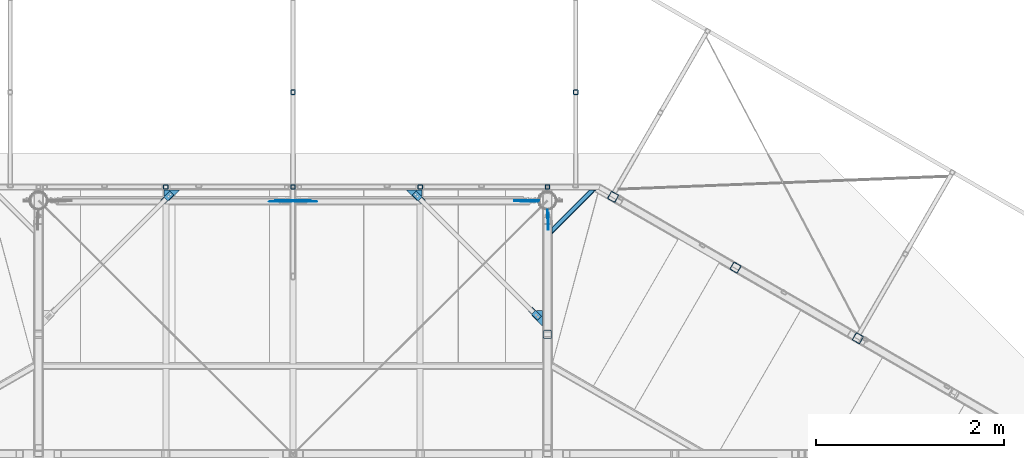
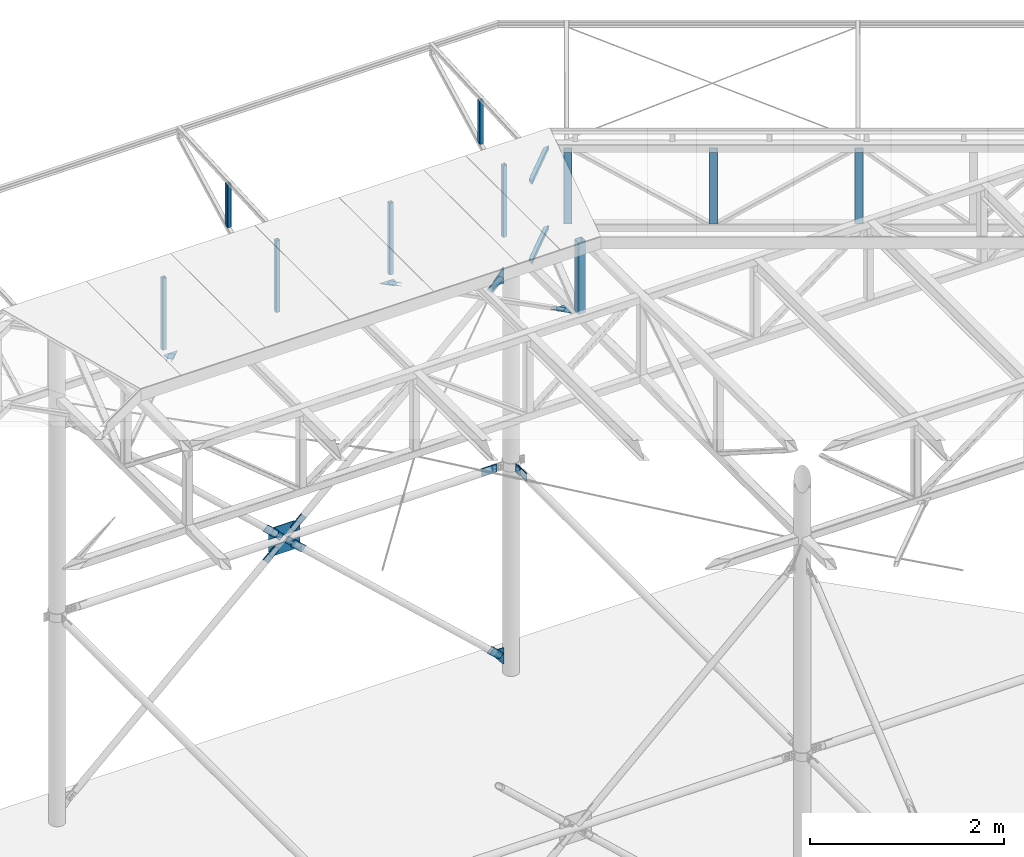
# One storey, part 94 of 132: 39 discrete accessories, 16 elements without a shape of their own.
"""IFC2X3 building model written with IfcOpenShell, lengths in millimetres."""

import ifcopenshell
import ifcopenshell.guid

model = None  # the IFC model being written
_history = None  # IfcOwnerHistory: only IFC2X3 demands one
_inside = {}  # id of a spatial element -> (the spatial element, [elements in it])
_under = {}  # id of a project, library or spatial element -> (it, [spatial elements below it])
_declared = {}  # id of a project -> (the project, [libraries it declares])
_typed = {}  # id of a type object -> (the type object, [elements of that type])
_made_of = {}  # id of a material, layer set ... -> (it, [elements and type objects made of it])


def new_model(schema):
    """Start an empty IFC model of exactly this schema.

    Asked for "IFC4X3", IfcOpenShell would pick the latest addendum, in which some entities
    have other attributes; the version numbers below select the first issue.
    IFC2X3 requires an IfcOwnerHistory on every rooted entity: one is made here for all.
    """
    global model, _history
    if schema == "IFC4X3":
        model = ifcopenshell.file(schema_version=(4, 3, 0, 0))
    else:
        model = ifcopenshell.file(schema=schema)
    _inside.clear()
    _under.clear()
    _declared.clear()
    _typed.clear()
    _made_of.clear()
    _history = None
    if model.schema == "IFC2X3":
        org = make("IfcOrganization", Name="unknown")
        user = make(
            "IfcPersonAndOrganization",
            ThePerson=make("IfcPerson", FamilyName="unknown"),
            TheOrganization=org,
        )
        app = make(
            "IfcApplication",
            ApplicationDeveloper=org,
            Version="unknown",
            ApplicationFullName="unknown",
            ApplicationIdentifier="unknown",
        )
        _history = make(
            "IfcOwnerHistory",
            OwningUser=user,
            OwningApplication=app,
            ChangeAction="ADDED",
            CreationDate=0,
        )
    return model


def make(cls, **values):
    """One entity of the class cls with the attributes given. An attribute that is None is left unset."""
    return model.create_entity(
        cls, **{name: value for name, value in values.items() if value is not None}
    )


def rooted(cls, **values):
    """An entity with a GlobalId (a new one), such as an element, a storey or a relation."""
    return make(cls, GlobalId=ifcopenshell.guid.new(), OwnerHistory=_history, **values)


def si_unit(unit_type, name, prefix=None):
    """IfcSIUnit, for example si_unit("LENGTHUNIT", "METRE", prefix="MILLI")."""
    return make("IfcSIUnit", UnitType=unit_type, Prefix=prefix, Name=name)


def assignment(units):
    """IfcUnitAssignment: the units of a project."""
    return None if units is None else make("IfcUnitAssignment", Units=units)


def point(xyz):
    """IfcCartesianPoint."""
    return None if xyz is None else make("IfcCartesianPoint", Coordinates=xyz)


def direction(xyz):
    """IfcDirection."""
    return None if xyz is None else make("IfcDirection", DirectionRatios=xyz)


def frame(location, z_axis=None, x_axis=None):
    """IfcAxis2Placement3D, a coordinate frame: its origin and axes. An axis left out is left unset."""
    return make(
        "IfcAxis2Placement3D",
        Location=point(location),
        Axis=direction(z_axis),
        RefDirection=direction(x_axis),
    )


def frame_2d(location, x_axis=None):
    """IfcAxis2Placement2D, a coordinate frame in the plane: its origin and x axis."""
    return make(
        "IfcAxis2Placement2D", Location=point(location), RefDirection=direction(x_axis)
    )


def origin_with_axes():
    """The frame at (0, 0, 0) with the z axis (0, 0, 1) and the x axis (1, 0, 0) written out."""
    return frame((0.0, 0.0, 0.0), z_axis=(0.0, 0.0, 1.0), x_axis=(1.0, 0.0, 0.0))


def origin_2d_with_axis():
    """The frame at (0, 0) in the plane with the x axis (1, 0) written out."""
    return frame_2d((0.0, 0.0), x_axis=(1.0, 0.0))


def place(relative_to, where):
    """IfcLocalPlacement: puts the frame where relative to a parent placement (None: the world)."""
    return make(
        "IfcLocalPlacement", PlacementRelTo=relative_to, RelativePlacement=where
    )


def context(
    kind, dimensions, precision=None, world=None, true_north=None, identifier=None
):
    """IfcGeometricRepresentationContext, for example the 3D "Model" context."""
    return make(
        "IfcGeometricRepresentationContext",
        ContextIdentifier=identifier,
        ContextType=kind,
        CoordinateSpaceDimension=dimensions,
        Precision=precision,
        WorldCoordinateSystem=world,
        TrueNorth=true_north,
    )


def subcontext(parent, identifier, kind, view, scale=None):
    """IfcGeometricRepresentationSubContext, for example "Body" below "Model"."""
    return make(
        "IfcGeometricRepresentationSubContext",
        ContextIdentifier=identifier,
        ContextType=kind,
        ParentContext=parent,
        TargetScale=scale,
        TargetView=view,
    )


def project(units=None, contexts=None):
    """IfcProject with its units and contexts."""
    return rooted(
        "IfcProject",
        Name="project",
        RepresentationContexts=contexts,
        UnitsInContext=assignment(units),
    )


def spatial(cls, under=None, at=None, **own):
    """A site, building, storey or space (cls), placed at a placement, below another one or the project."""
    s = rooted(cls, ObjectPlacement=at, **own)
    if under is not None:
        _under.setdefault(under.id(), (under, []))[1].append(s)
    return s


def polyline(points):
    """IfcPolyline through the points."""
    return make("IfcPolyline", Points=[point(p) for p in points])


def profile(cls, at=None, kind="AREA", **sizes):
    """A parametric profile (cls). Its sizes go by their IFC names, for example OverallWidth=200.0."""
    return make(cls, ProfileType=kind, Position=at, **sizes)


def rectangle(**sizes):
    """IfcRectangleProfileDef."""
    return profile("IfcRectangleProfileDef", **sizes)


def hollow_rectangle(**sizes):
    """IfcRectangleHollowProfileDef."""
    return profile("IfcRectangleHollowProfileDef", **sizes)


def outline(outer, holes=None, kind="AREA"):
    """IfcArbitraryClosedProfileDef: a profile drawn as a closed curve; with holes, ...WithVoids."""
    if holes is None:
        return make("IfcArbitraryClosedProfileDef", ProfileType=kind, OuterCurve=outer)
    return make(
        "IfcArbitraryProfileDefWithVoids",
        ProfileType=kind,
        OuterCurve=outer,
        InnerCurves=holes,
    )


def extrude(swept, where, along, depth):
    """IfcExtrudedAreaSolid: the profile swept, set in the frame where, extruded along a direction by depth."""
    return make(
        "IfcExtrudedAreaSolid",
        SweptArea=swept,
        Position=where,
        ExtrudedDirection=direction(along),
        Depth=depth,
    )


def boolean(op, a, b):
    """IfcBooleanResult of two solids."""
    return make("IfcBooleanResult", Operator=op, FirstOperand=a, SecondOperand=b)


def clip(a, b, op="DIFFERENCE"):
    """IfcBooleanClippingResult: the solid a cut by the half space b."""
    return make(
        "IfcBooleanClippingResult", Operator=op, FirstOperand=a, SecondOperand=b
    )


def halfspace(plane, agree):
    """IfcHalfSpaceSolid: all space on one side of the plane z = 0 of the frame plane."""
    return make(
        "IfcHalfSpaceSolid",
        BaseSurface=make("IfcPlane", Position=plane),
        AgreementFlag=agree,
    )


def shape(context_of_items, identifier, shape_type, items):
    """IfcShapeRepresentation: the items that make up one representation, for example the "Body"."""
    return make(
        "IfcShapeRepresentation",
        ContextOfItems=context_of_items,
        RepresentationIdentifier=identifier,
        RepresentationType=shape_type,
        Items=items,
    )


def material(Name=None, Category=None):
    """IfcMaterial."""
    return make("IfcMaterial", Name=Name, Category=Category)


def made_of(thing, what):
    """Note that an element or type object is made of a material, layer set ...; save() writes the relation."""
    if what is not None:
        _made_of.setdefault(what.id(), (what, []))[1].append(thing)
    return thing


def type_object(cls, material=None, **own):
    """A type object (cls), such as IfcWallType, which elements share."""
    return made_of(rooted(cls, **own), material)


def element(
    cls,
    number,
    at=None,
    inside=None,
    cuts=None,
    type_object=None,
    material=None,
    context=None,
    identifier="Body",
    shape_type=None,
    held_by="IfcProductDefinitionShape",
    body=None,
    shapes=None,
    **own,
):
    """One element of the class cls, such as IfcWall. Its Tag is "e" and its number.

    at: its placement. inside: the storey or other place that contains it. cuts: it is an
    opening in that element (IfcRelVoidsElement). A single representation is given by context,
    identifier, shape_type and body (its items); several are given by shapes. held_by: the class
    of the entity that holds the representations. save() writes the other relations.
    """
    e = rooted(cls, Tag="e%d" % number, ObjectPlacement=at, **own)
    if body is not None:
        shapes = [shape(context, identifier, shape_type, body)]
    if shapes is not None:
        e.Representation = make(held_by, Representations=shapes)
    if inside is not None:
        _inside.setdefault(inside.id(), (inside, []))[1].append(e)
    if cuts is not None:
        rooted(
            "IfcRelVoidsElement", RelatingBuildingElement=cuts, RelatedOpeningElement=e
        )
    if type_object is not None:
        _typed.setdefault(type_object.id(), (type_object, []))[1].append(e)
    return made_of(e, material)


def aggregate(whole, parts):
    """IfcRelAggregates: a whole, such as a stair, and the parts it consists of."""
    return rooted("IfcRelAggregates", RelatingObject=whole, RelatedObjects=parts)


def save(model, path):
    """Write the relations noted so far, then the file.

    IfcRelAggregates (storeys below a building ...), IfcRelContainedInSpatialStructure (elements
    in a storey), IfcRelDefinesByType, IfcRelAssociatesMaterial and IfcRelDeclares: one each for
    every whole, place, type object, material and project.
    """
    for whole, parts in _under.values():
        aggregate(whole, parts)
    for where, things in _inside.values():
        rooted(
            "IfcRelContainedInSpatialStructure",
            RelatedElements=things,
            RelatingStructure=where,
        )
    for kind, things in _typed.values():
        rooted("IfcRelDefinesByType", RelatedObjects=things, RelatingType=kind)
    for what, things in _made_of.values():
        rooted("IfcRelAssociatesMaterial", RelatedObjects=things, RelatingMaterial=what)
    for by, libraries in _declared.values():
        rooted("IfcRelDeclares", RelatingContext=by, RelatedDefinitions=libraries)
    model.write(path)


model = new_model("IFC2X3")

# Units and contexts
model_context = context("Model", 3, precision=1e-05, world=origin_with_axes())
body_context = subcontext(model_context, "Body", "Model", "MODEL_VIEW")
ifc_project = project(units=[si_unit("LENGTHUNIT", "METRE", prefix="MILLI"), si_unit("AREAUNIT", "SQUARE_METRE"), si_unit("VOLUMEUNIT", "CUBIC_METRE"), si_unit("MASSUNIT", "GRAM", prefix="KILO"), si_unit("TIMEUNIT", "SECOND"), si_unit("PLANEANGLEUNIT", "RADIAN"), si_unit("SOLIDANGLEUNIT", "STERADIAN"), si_unit("THERMODYNAMICTEMPERATUREUNIT", "DEGREE_CELSIUS"), si_unit("LUMINOUSINTENSITYUNIT", "LUMEN")], contexts=[model_context])

# Site, building, storey
site_placement = place(None, origin_with_axes())
site = spatial("IfcSite", under=ifc_project, at=site_placement, Name="Budowa", CompositionType="ELEMENT")
building_placement = place(site_placement, origin_with_axes())
building = spatial("IfcBuilding", under=site, at=building_placement, Name="Undefined", CompositionType="ELEMENT")
storey_placement = place(building_placement, origin_with_axes())
storey = spatial("IfcBuildingStorey", under=building, at=storey_placement, Name="Undefined", CompositionType="ELEMENT", Elevation=0.0)

# Assembly, discrete accessory
assembly_1_placement = place(storey_placement, origin_with_axes())
assembly_1 = element("IfcElementAssembly", 1, at=assembly_1_placement, inside=storey, Name="Steel Assembly", AssemblyPlace="NOTDEFINED", PredefinedType="RIGID_FRAME")
ifc_material = material(Name="STEEL/S235")
discrete_accessory_type_1 = type_object("IfcDiscreteAccessoryType", Name="BLACHA")
discrete_accessory_1_placement = place(assembly_1_placement, frame((14736.1000002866, 23999.9990001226, 12407.0002670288), z_axis=(0.0, -1.0, 0.0), x_axis=(0.0, 0.0, 1.0)))
discrete_accessory_1 = element("IfcDiscreteAccessory", 2, at=discrete_accessory_1_placement, type_object=discrete_accessory_type_1, material=ifc_material, Name="BLACHA", ObjectType="BL8*126", context=body_context, shape_type="SweptSolid", body=[
    extrude(outline(polyline([(0.0, 0.0), (203.000061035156, 0.0), (203.000061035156, 10.0), (58.0005645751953, 125.999824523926), (-1.72803993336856e-10, 72.998420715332), (0.0, 0.0)])), frame((0.0, 0.0, -4.0), z_axis=(0.0, 0.0, 1.0), x_axis=(1.0, 0.0, 0.0)), (0.0, 0.0, 1.0), 8.0),
])

assembly_2_placement = place(storey_placement, origin_with_axes())
assembly_2 = element("IfcElementAssembly", 3, at=assembly_2_placement, inside=storey, Name="Steel Assembly", AssemblyPlace="NOTDEFINED", PredefinedType="RIGID_FRAME")
discrete_accessory_2_placement = place(assembly_2_placement, frame((12051.7643931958, 23989.9999971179, 9989.80782337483), z_axis=(0.0, -1.0, 0.0), x_axis=(0.0395984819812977, 0.0, 0.999215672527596)))
discrete_accessory_2 = element("IfcDiscreteAccessory", 4, at=discrete_accessory_2_placement, type_object=discrete_accessory_type_1, material=ifc_material, Name="BLACHA", ObjectType="BL8*86", context=body_context, shape_type="SweptSolid", body=[
    extrude(outline(polyline([(0.0, 0.0), (28.2842712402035, 3.27418092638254e-11), (60.8111839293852, 32.5269126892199), (60.8111839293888, 60.8111839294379), (-59.3969688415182, 181.019332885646), (-120.20815277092, 120.208152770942), (0.0, 0.0)])), frame((0.0, 0.0, -4.0), z_axis=(0.0, 0.0, 1.0), x_axis=(1.0, 0.0, 0.0)), (0.0, 0.0, 1.0), 8.0),
])
aggregate(assembly_2, [discrete_accessory_2])

assembly_3_placement = place(storey_placement, origin_with_axes())
assembly_3 = element("IfcElementAssembly", 5, at=assembly_3_placement, inside=storey, Name="Steel Assembly", AssemblyPlace="NOTDEFINED", PredefinedType="RIGID_FRAME")
discrete_accessory_3_placement = place(assembly_3_placement, frame((12256.5937293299, 23989.9999971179, 10052.9793451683), z_axis=(0.0, -1.0, 0.0), x_axis=(-0.999215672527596, 0.0, -0.0395984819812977)))
discrete_accessory_3 = element("IfcDiscreteAccessory", 6, at=discrete_accessory_3_placement, type_object=discrete_accessory_type_1, material=ifc_material, Name="BLACHA", ObjectType="BL8*86", context=body_context, shape_type="SweptSolid", body=[
    extrude(outline(polyline([(0.0, 0.0), (28.2842712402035, 3.27418092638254e-11), (60.8111839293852, 32.5269126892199), (60.8111839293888, 60.8111839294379), (-59.3969688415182, 181.019332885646), (-120.20815277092, 120.208152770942), (0.0, 0.0)])), frame((0.0, 0.0, -4.0), z_axis=(0.0, 0.0, 1.0), x_axis=(1.0, 0.0, 0.0)), (0.0, 0.0, 1.0), 8.0),
])

assembly_4_placement = place(storey_placement, origin_with_axes())
assembly_4 = element("IfcElementAssembly", 7, at=assembly_4_placement, inside=storey, Name="Steel Assembly", AssemblyPlace="NOTDEFINED", PredefinedType="RIGID_FRAME")
discrete_accessory_4_placement = place(assembly_4_placement, frame((12311.4051663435, 23997.9999971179, 10071.5503790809), z_axis=(0.0, -1.0, 0.0), x_axis=(-1.0, 0.0, 0.0)))
discrete_accessory_4 = element("IfcDiscreteAccessory", 8, at=discrete_accessory_4_placement, type_object=discrete_accessory_type_1, material=ifc_material, Name="BLACHA", ObjectType="BL8*133", context=body_context, shape_type="SweptSolid", body=[
    extrude(outline(polyline([(0.0, 0.0), (372.807678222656, 0.0), (372.807678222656, 62.396900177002), (307.666687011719, 132.913940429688), (65.1409759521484, 132.913940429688), (0.0, 62.396900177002), (0.0, 0.0)])), frame((0.0, 0.0, -4.0), z_axis=(0.0, 0.0, 1.0), x_axis=(1.0, 0.0, 0.0)), (0.0, 0.0, 1.0), 8.0),
])

assembly_5_placement = place(storey_placement, origin_with_axes())
assembly_5 = element("IfcElementAssembly", 9, at=assembly_5_placement, inside=storey, Name="Steel Assembly", AssemblyPlace="NOTDEFINED", PredefinedType="RIGID_FRAME")
discrete_accessory_5_placement = place(assembly_5_placement, frame((11993.4089381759, 23989.9999968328, 10179.0214130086), z_axis=(0.0, -1.0, 0.0), x_axis=(0.999215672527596, 0.0, 0.0395984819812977)))
discrete_accessory_5 = element("IfcDiscreteAccessory", 10, at=discrete_accessory_5_placement, type_object=discrete_accessory_type_1, material=ifc_material, Name="BLACHA", ObjectType="BL8*86", context=body_context, shape_type="SweptSolid", body=[
    extrude(outline(polyline([(0.0, 0.0), (28.2842712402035, 3.27418092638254e-11), (60.8111839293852, 32.5269126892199), (60.8111839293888, 60.8111839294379), (-59.3969688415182, 181.019332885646), (-120.20815277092, 120.208152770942), (0.0, 0.0)])), frame((0.0, 0.0, -4.0), z_axis=(0.0, 0.0, 1.0), x_axis=(1.0, 0.0, 0.0)), (0.0, 0.0, 1.0), 8.0),
])
aggregate(assembly_5, [discrete_accessory_5])

assembly_6_placement = place(storey_placement, origin_with_axes())
assembly_6 = element("IfcElementAssembly", 11, at=assembly_6_placement, inside=storey, Name="Steel Assembly", AssemblyPlace="NOTDEFINED", PredefinedType="RIGID_FRAME")
discrete_accessory_6_placement = place(assembly_6_placement, frame((12198.2382742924, 23989.9999968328, 10242.192930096), z_axis=(0.0, -1.0, 0.0), x_axis=(-0.0395984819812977, 0.0, -0.999215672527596)))
discrete_accessory_6 = element("IfcDiscreteAccessory", 12, at=discrete_accessory_6_placement, type_object=discrete_accessory_type_1, material=ifc_material, Name="BLACHA", ObjectType="BL8*86", context=body_context, shape_type="SweptSolid", body=[
    extrude(outline(polyline([(0.0, 0.0), (28.2842712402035, 3.27418092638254e-11), (60.8111839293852, 32.5269126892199), (60.8111839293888, 60.8111839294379), (-59.3969688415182, 181.019332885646), (-120.20815277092, 120.208152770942), (0.0, 0.0)])), frame((0.0, 0.0, -4.0), z_axis=(0.0, 0.0, 1.0), x_axis=(1.0, 0.0, 0.0)), (0.0, 0.0, 1.0), 8.0),
])

# Discrete accessory
discrete_accessory_7_placement = place(assembly_4_placement, frame((11938.5974989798, 23997.9999968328, 10160.4503767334), z_axis=(0.0, -1.0, 0.0), x_axis=(1.0, 0.0, 0.0)))
discrete_accessory_7 = element("IfcDiscreteAccessory", 13, at=discrete_accessory_7_placement, type_object=discrete_accessory_type_1, material=ifc_material, Name="BLACHA", ObjectType="BL8*133", context=body_context, shape_type="SweptSolid", body=[
    extrude(outline(polyline([(0.0, 0.0), (372.807678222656, 0.0), (372.807678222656, 62.396900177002), (307.666687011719, 132.913940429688), (65.1409759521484, 132.913940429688), (0.0, 62.396900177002), (0.0, 0.0)])), frame((0.0, 0.0, -4.0), z_axis=(0.0, 0.0, 1.0), x_axis=(1.0, 0.0, 0.0)), (0.0, 0.0, 1.0), 8.0),
])

discrete_accessory_8_placement = place(assembly_1_placement, frame((14736.1000003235, 23999.9990001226, 7622.0004196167), z_axis=(0.0, -1.0, 0.0), x_axis=(0.0, 0.0, 1.0)))
discrete_accessory_8 = element("IfcDiscreteAccessory", 14, at=discrete_accessory_8_placement, type_object=discrete_accessory_type_1, material=ifc_material, Name="BLACHA", ObjectType="BL8*126", context=body_context, shape_type="SweptSolid", body=[
    extrude(outline(polyline([(0.0, 0.0), (203.000061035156, 0.0), (203.000076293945, 72.998420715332), (145.000457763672, 125.999824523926), (0.0, 10.0), (0.0, 0.0)])), frame((0.0, 0.0, -4.0), z_axis=(0.0, 0.0, 1.0), x_axis=(1.0, 0.0, 0.0)), (0.0, 0.0, 1.0), 8.0),
])

discrete_accessory_9_placement = place(assembly_6_placement, frame((14702.6899626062, 23989.9999976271, 12497.1715521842), z_axis=(-0.678551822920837, 0.0, 0.734552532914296), x_axis=(-0.734552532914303, 0.0, -0.67855182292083)))
discrete_accessory_9 = element("IfcDiscreteAccessory", 15, at=discrete_accessory_9_placement, type_object=discrete_accessory_type_1, material=ifc_material, Name="BLACHA", ObjectType="BL8*86", context=body_context, shape_type="CSG", body=[
    boolean("DIFFERENCE", boolean("DIFFERENCE", extrude(rectangle(XDim=8.0, YDim=86.0, at=origin_2d_with_axis()), frame((190.000000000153, -3.63797880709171e-12, 3.30513394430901e-13), z_axis=(-1.0, 0.0, 0.0), x_axis=(0.0, -1.0, 0.0)), (0.0, 0.0, 1.0), 190.0), extrude(outline(polyline([(0.0, 0.0), (20.0000000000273, -3.63797880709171e-12), (5.45696821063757e-12, 20.0000000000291), (0.0, 0.0)])), frame((-1.81898940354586e-12, -6.50000242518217, -42.9999999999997), z_axis=(0.0, 1.0, 0.0), x_axis=(0.0, 0.0, 1.0)), (0.0, 0.0, 1.0), 13.0)), extrude(outline(polyline([(0.0, 0.0), (20.0000000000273, -3.63797880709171e-12), (5.45696821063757e-12, 20.0000000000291), (0.0, 0.0)])), frame((-1.81898940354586e-12, 6.49999757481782, 42.9999999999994), z_axis=(0.0, -1.0, 0.0), x_axis=(0.0, 0.0, -1.0)), (0.0, 0.0, 1.0), 13.0)),
])

aggregate(assembly_6, [discrete_accessory_6, discrete_accessory_9])

discrete_accessory_10_placement = place(assembly_3_placement, frame((14702.689963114, 23989.9999973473, 7734.82920317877), z_axis=(0.678551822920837, 0.0, 0.734552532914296), x_axis=(-0.734552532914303, 0.0, 0.67855182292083)))
discrete_accessory_10 = element("IfcDiscreteAccessory", 16, at=discrete_accessory_10_placement, type_object=discrete_accessory_type_1, material=ifc_material, Name="BLACHA", ObjectType="BL8*86", context=body_context, shape_type="CSG", body=[
    boolean("DIFFERENCE", boolean("DIFFERENCE", extrude(rectangle(XDim=8.0, YDim=86.0, at=origin_2d_with_axis()), frame((190.000000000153, -3.63797880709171e-12, 3.30513394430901e-13), z_axis=(-1.0, 0.0, 0.0), x_axis=(0.0, -1.0, 0.0)), (0.0, 0.0, 1.0), 190.0), extrude(outline(polyline([(0.0, 0.0), (20.0000000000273, -3.63797880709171e-12), (5.45696821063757e-12, 20.0000000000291), (0.0, 0.0)])), frame((-1.81898940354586e-12, 6.49999757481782, 42.9999999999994), z_axis=(0.0, -1.0, 0.0), x_axis=(0.0, 0.0, -1.0)), (0.0, 0.0, 1.0), 13.0)), extrude(outline(polyline([(0.0, 0.0), (20.0000000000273, -3.63797880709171e-12), (5.45696821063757e-12, 20.0000000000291), (0.0, 0.0)])), frame((-1.81898940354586e-12, -6.50000242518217, -42.9999999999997), z_axis=(0.0, 1.0, 0.0), x_axis=(0.0, 0.0, 1.0)), (0.0, 0.0, 1.0), 13.0)),
])

aggregate(assembly_3, [discrete_accessory_3, discrete_accessory_10])

# Assembly, discrete accessory
assembly_7_placement = place(storey_placement, origin_with_axes())
assembly_7 = element("IfcElementAssembly", 17, at=assembly_7_placement, inside=storey, Name="Steel Assembly", AssemblyPlace="NOTDEFINED", PredefinedType="RIGID_FRAME")
discrete_accessory_11_placement = place(assembly_7_placement, frame((14832.9999972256, 23872.0920947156, 10116.0003779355), z_axis=(-1.0, 0.0, 0.0), x_axis=(0.0, -1.0, 0.0)))
discrete_accessory_11 = element("IfcDiscreteAccessory", 18, at=discrete_accessory_11_placement, type_object=discrete_accessory_type_1, material=ifc_material, Name="BLACHA", ObjectType="BL8*100", context=body_context, shape_type="SweptSolid", body=[
    extrude(outline(polyline([(180.0, -50.0), (0.0, -50.0), (0.0, 50.0), (180.0, 50.0), (180.0, -50.0)])), frame((0.0, 0.0, -4.0), z_axis=(0.0, 0.0, 1.0), x_axis=(1.0, 0.0, 0.0)), (0.0, 0.0, 1.0), 8.0),
])
aggregate(assembly_7, [discrete_accessory_11])

assembly_8_placement = place(storey_placement, origin_with_axes())
assembly_8 = element("IfcElementAssembly", 19, at=assembly_8_placement, inside=storey, Name="Steel Assembly", AssemblyPlace="NOTDEFINED", PredefinedType="RIGID_FRAME")
discrete_accessory_12_placement = place(assembly_8_placement, frame((14824.9999972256, 23902.0043566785, 10066.0003759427), z_axis=(1.0, 0.0, 0.0), x_axis=(0.0, 0.0, 1.0)))
discrete_accessory_12 = element("IfcDiscreteAccessory", 20, at=discrete_accessory_12_placement, type_object=discrete_accessory_type_1, material=ifc_material, Name="BLACHA", ObjectType="BL8*90", context=body_context, shape_type="SweptSolid", body=[
    extrude(outline(polyline([(0.0, 0.0), (100.0, 0.0), (100.0, 89.9122619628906), (0.0, 89.9122619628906), (0.0, 0.0)])), frame((0.0, 0.0, -4.0), z_axis=(0.0, 0.0, 1.0), x_axis=(1.0, 0.0, 0.0)), (0.0, 0.0, 1.0), 8.0),
])
aggregate(assembly_8, [discrete_accessory_12])

# Discrete accessory
discrete_accessory_13_placement = place(assembly_4_placement, frame((14651.863305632, 23997.9999994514, 10116.0003779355), z_axis=(0.0, 1.0, 0.0), x_axis=(-1.0, 0.0, 0.0)))
discrete_accessory_13 = element("IfcDiscreteAccessory", 21, at=discrete_accessory_13_placement, type_object=discrete_accessory_type_1, material=ifc_material, Name="BLACHA", ObjectType="BL8*100", context=body_context, shape_type="SweptSolid", body=[
    extrude(outline(polyline([(180.0, -50.0), (0.0, -50.0), (0.0, 50.0), (180.0, 50.0), (180.0, -50.0)])), frame((0.0, 0.0, -4.0), z_axis=(0.0, 0.0, 1.0), x_axis=(1.0, 0.0, 0.0)), (0.0, 0.0, 1.0), 8.0),
])

aggregate(assembly_4, [discrete_accessory_4, discrete_accessory_7, discrete_accessory_13])

# Assembly, discrete accessory
assembly_9_placement = place(storey_placement, origin_with_axes())
assembly_9 = element("IfcElementAssembly", 22, at=assembly_9_placement, inside=storey, Name="Steel Assembly", AssemblyPlace="NOTDEFINED", PredefinedType="RIGID_FRAME")
discrete_accessory_14_placement = place(assembly_9_placement, frame((14702.689963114, 23991.9999973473, 7734.82920317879), z_axis=(0.678551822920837, 0.0, 0.734552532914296), x_axis=(-0.734552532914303, 0.0, 0.67855182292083)))
discrete_accessory_14 = element("IfcDiscreteAccessory", 23, at=discrete_accessory_14_placement, type_object=discrete_accessory_type_1, material=ifc_material, Name="BLACHA", ObjectType="BL8*69", context=body_context, shape_type="SweptSolid", body=[
    extrude(rectangle(XDim=8.0, YDim=69.0, at=origin_2d_with_axis()), frame((149.999999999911, 0.0, 0.0), z_axis=(-1.0, 0.0, 0.0), x_axis=(0.0, -1.0, 0.0)), (0.0, 0.0, 1.0), 150.0),
])

# Discrete accessory
discrete_accessory_15_placement = place(assembly_1_placement, frame((14736.1000003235, 23999.9999973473, 7650.19203918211), z_axis=(0.0, -1.0, 0.0), x_axis=(0.0, 0.0, 1.0)))
discrete_accessory_15 = element("IfcDiscreteAccessory", 24, at=discrete_accessory_15_placement, type_object=discrete_accessory_type_1, material=ifc_material, Name="BLACHA", ObjectType="BL8*126", context=body_context, shape_type="SweptSolid", body=[
    extrude(outline(polyline([(0.0, 0.0), (174.721649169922, 0.0), (174.721649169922, 72.7169723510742), (116.692001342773, 126.322563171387), (0.0, 10.0), (0.0, 0.0)])), frame((0.0, 0.0, -4.0), z_axis=(0.0, 0.0, 1.0), x_axis=(1.0, 0.0, 0.0)), (0.0, 0.0, 1.0), 8.0),
])

# Assembly, discrete accessory
assembly_10_placement = place(storey_placement, origin_with_axes())
assembly_10 = element("IfcElementAssembly", 25, at=assembly_10_placement, inside=storey, Name="Steel Assembly", AssemblyPlace="NOTDEFINED", PredefinedType="RIGID_FRAME")
discrete_accessory_16_placement = place(assembly_10_placement, frame((14702.6899626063, 23991.9999976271, 12497.1715521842), z_axis=(-0.678551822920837, 0.0, 0.734552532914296), x_axis=(-0.734552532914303, 0.0, -0.67855182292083)))
discrete_accessory_16 = element("IfcDiscreteAccessory", 26, at=discrete_accessory_16_placement, type_object=discrete_accessory_type_1, material=ifc_material, Name="BLACHA", ObjectType="BL8*69", context=body_context, shape_type="SweptSolid", body=[
    extrude(rectangle(XDim=8.0, YDim=69.0, at=origin_2d_with_axis()), frame((149.999999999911, 0.0, 0.0), z_axis=(-1.0, 0.0, 0.0), x_axis=(0.0, -1.0, 0.0)), (0.0, 0.0, 1.0), 150.0),
])

# Discrete accessory
discrete_accessory_17_placement = place(assembly_1_placement, frame((14736.1000002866, 23999.9999976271, 12407.0870645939), z_axis=(0.0, -1.0, 0.0), x_axis=(0.0, 0.0, 1.0)))
discrete_accessory_17 = element("IfcDiscreteAccessory", 27, at=discrete_accessory_17_placement, type_object=discrete_accessory_type_1, material=ifc_material, Name="BLACHA", ObjectType="BL8*126", context=body_context, shape_type="SweptSolid", body=[
    extrude(outline(polyline([(0.0, 0.0), (174.721649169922, 0.0), (174.721649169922, 10.0), (58.0296516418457, 126.322563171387), (0.0, 72.7169723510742), (0.0, 0.0)])), frame((0.0, 0.0, -4.0), z_axis=(0.0, 0.0, 1.0), x_axis=(1.0, 0.0, 0.0)), (0.0, 0.0, 1.0), 8.0),
])

aggregate(assembly_1, [discrete_accessory_1, discrete_accessory_8, discrete_accessory_15, discrete_accessory_17])

discrete_accessory_18_placement = place(assembly_9_placement, frame((12156.0118626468, 23991.9999977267, 10087.3540261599), z_axis=(-0.67855182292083, 0.0, -0.734552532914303), x_axis=(0.734552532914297, 0.0, -0.678551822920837)))
discrete_accessory_18 = element("IfcDiscreteAccessory", 28, at=discrete_accessory_18_placement, type_object=discrete_accessory_type_1, material=ifc_material, Name="BLACHA", ObjectType="BL8*69", context=body_context, shape_type="SweptSolid", body=[
    extrude(rectangle(XDim=8.0, YDim=69.0, at=origin_2d_with_axis()), frame((149.999999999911, 0.0, 0.0), z_axis=(-1.0, 0.0, 0.0), x_axis=(0.0, -1.0, 0.0)), (0.0, 0.0, 1.0), 150.0),
])

aggregate(assembly_9, [discrete_accessory_14, discrete_accessory_18])

discrete_accessory_19_placement = place(assembly_10_placement, frame((12181.529211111, 23999.9999977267, 10128.256469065), z_axis=(0.0, -1.0, 0.0), x_axis=(-0.734552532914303, 0.0, -0.67855182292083)))
discrete_accessory_19 = element("IfcDiscreteAccessory", 29, at=discrete_accessory_19_placement, type_object=discrete_accessory_type_1, material=ifc_material, Name="BLACHA", ObjectType="BL8*87", context=body_context, shape_type="SweptSolid", body=[
    extrude(outline(polyline([(0.0, 0.0), (87.1330947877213, 3.63797880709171e-12), (78.7522506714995, 105.573730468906), (-3.63797880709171e-12, 99.3220748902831), (0.0, 0.0)])), frame((0.0, 0.0, -4.0), z_axis=(0.0, 0.0, 1.0), x_axis=(1.0, 0.0, 0.0)), (0.0, 0.0, 1.0), 8.0),
])

# Assembly, discrete accessory
assembly_11_placement = place(storey_placement, origin_with_axes())
assembly_11 = element("IfcElementAssembly", 30, at=assembly_11_placement, inside=storey, Name="Steel Assembly", AssemblyPlace="NOTDEFINED", PredefinedType="RIGID_FRAME")
discrete_accessory_20_placement = place(assembly_11_placement, frame((12093.9908069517, 23991.9999975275, 10144.6467300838), z_axis=(0.678551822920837, 0.0, 0.734552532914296), x_axis=(-0.734552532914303, 0.0, 0.67855182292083)))
discrete_accessory_20 = element("IfcDiscreteAccessory", 31, at=discrete_accessory_20_placement, type_object=discrete_accessory_type_1, material=ifc_material, Name="BLACHA", ObjectType="BL8*69", context=body_context, shape_type="SweptSolid", body=[
    extrude(rectangle(XDim=8.0, YDim=69.0, at=origin_2d_with_axis()), frame((149.999999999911, 0.0, 0.0), z_axis=(-1.0, 0.0, 0.0), x_axis=(0.0, -1.0, 0.0)), (0.0, 0.0, 1.0), 150.0),
])
aggregate(assembly_11, [discrete_accessory_20])

# Discrete accessory
discrete_accessory_21_placement = place(assembly_10_placement, frame((12068.4734567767, 23999.9999975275, 10103.7442853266), z_axis=(0.0, -1.0, 0.0), x_axis=(0.734552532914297, 0.0, 0.678551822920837)))
discrete_accessory_21 = element("IfcDiscreteAccessory", 32, at=discrete_accessory_21_placement, type_object=discrete_accessory_type_1, material=ifc_material, Name="BLACHA", ObjectType="BL8*87", context=body_context, shape_type="SweptSolid", body=[
    extrude(outline(polyline([(0.0, 0.0), (87.1330947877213, 3.63797880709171e-12), (78.7522506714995, 105.573730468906), (-3.63797880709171e-12, 99.3220748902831), (0.0, 0.0)])), frame((0.0, 0.0, -4.0), z_axis=(0.0, 0.0, 1.0), x_axis=(1.0, 0.0, 0.0)), (0.0, 0.0, 1.0), 8.0),
])

aggregate(assembly_10, [discrete_accessory_16, discrete_accessory_19, discrete_accessory_21])

# Assembly, discrete accessory
assembly_12_placement = place(storey_placement, origin_with_axes())
assembly_12 = element("IfcElementAssembly", 33, at=assembly_12_placement, inside=storey, Name="Steel Assembly", AssemblyPlace="NOTDEFINED", PredefinedType="RIGID_FRAME")
discrete_accessory_22_placement = place(assembly_12_placement, frame((10762.0050487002, 23959.4786419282, 12830.0), z_axis=(0.0, 0.0, 1.0), x_axis=(0.707106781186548, 0.707106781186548, 0.0)))
discrete_accessory_22 = element("IfcDiscreteAccessory", 34, at=discrete_accessory_22_placement, type_object=discrete_accessory_type_1, material=ifc_material, Name="BLACHA", ObjectType="BL6*60", context=body_context, shape_type="SweptSolid", body=[
    extrude(outline(polyline([(0.0, 0.0), (139.99999999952, -6.2755134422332e-10), (139.99999999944, 59.9999999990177), (0.0, 60.0), (-8.00355337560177e-11, 54.9999999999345), (49.9999999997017, 54.9999999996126), (49.9999999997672, 4.99999999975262), (-8.73114913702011e-11, 5.00000000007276), (0.0, 0.0)])), frame((0.0, 0.0, -3.0), z_axis=(0.0, 0.0, 1.0), x_axis=(1.0, 0.0, 0.0)), (0.0, 0.0, 1.0), 6.0),
])
aggregate(assembly_12, [discrete_accessory_22])

assembly_13_placement = place(storey_placement, origin_with_axes())
assembly_13 = element("IfcElementAssembly", 35, at=assembly_13_placement, inside=storey, Name="Steel Assembly", AssemblyPlace="NOTDEFINED", PredefinedType="RIGID_FRAME")
discrete_accessory_23_placement = place(assembly_13_placement, frame((10924.4974746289, 24114.9000000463, 12824.0), z_axis=(0.0, 0.0, 1.0), x_axis=(-1.0, 0.0, 0.0)))
discrete_accessory_23 = element("IfcDiscreteAccessory", 36, at=discrete_accessory_23_placement, type_object=discrete_accessory_type_1, material=ifc_material, Name="BLACHA", ObjectType="BL6*117", context=body_context, shape_type="SweptSolid", body=[
    extrude(outline(polyline([(0.0, 0.0), (166.027954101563, 0.0), (166.027954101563, 67.0330123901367), (116.530487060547, 116.530487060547), (0.0, 0.0)])), frame((0.0, 0.0, -3.0), z_axis=(0.0, 0.0, 1.0), x_axis=(1.0, 0.0, 0.0)), (0.0, 0.0, 1.0), 6.0),
])

assembly_14_placement = place(storey_placement, origin_with_axes())
assembly_14 = element("IfcElementAssembly", 37, at=assembly_14_placement, inside=storey, Name="Steel Assembly", AssemblyPlace="NOTDEFINED", PredefinedType="RIGID_FRAME")
discrete_accessory_24_placement = place(assembly_14_placement, frame((13530.4213581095, 24001.9050487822, 12830.0), z_axis=(0.0, 0.0, 1.0), x_axis=(-0.707106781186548, 0.707106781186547, 0.0)))
discrete_accessory_24 = element("IfcDiscreteAccessory", 38, at=discrete_accessory_24_placement, type_object=discrete_accessory_type_1, material=ifc_material, Name="BLACHA", ObjectType="BL6*60", context=body_context, shape_type="SweptSolid", body=[
    extrude(outline(polyline([(0.0, 0.0), (139.99999999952, -6.2755134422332e-10), (139.99999999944, 59.9999999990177), (0.0, 60.0), (-8.00355337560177e-11, 54.9999999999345), (49.9999999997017, 54.9999999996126), (49.9999999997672, 4.99999999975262), (-8.73114913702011e-11, 5.00000000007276), (0.0, 0.0)])), frame((0.0, 0.0, -3.0), z_axis=(0.0, 0.0, 1.0), x_axis=(1.0, 0.0, 0.0)), (0.0, 0.0, 1.0), 6.0),
])

# Discrete accessory
discrete_accessory_25_placement = place(assembly_13_placement, frame((13491.5304832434, 24114.9000000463, 12824.0), z_axis=(0.0, 0.0, 1.0), x_axis=(-1.0, 0.0, 0.0)))
discrete_accessory_25 = element("IfcDiscreteAccessory", 39, at=discrete_accessory_25_placement, type_object=discrete_accessory_type_1, material=ifc_material, Name="BLACHA", ObjectType="BL6*117", context=body_context, shape_type="SweptSolid", body=[
    extrude(outline(polyline([(0.0, 0.0), (166.027954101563, 0.0), (49.4974746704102, 116.530487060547), (0.0, 67.0330123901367), (0.0, 0.0)])), frame((0.0, 0.0, -3.0), z_axis=(0.0, 0.0, 1.0), x_axis=(1.0, 0.0, 0.0)), (0.0, 0.0, 1.0), 6.0),
])

discrete_accessory_26_placement = place(assembly_14_placement, frame((14619.5786418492, 22827.8949512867, 12830.0), z_axis=(0.0, 0.0, 1.0), x_axis=(0.707106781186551, -0.707106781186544, 0.0)))
discrete_accessory_26 = element("IfcDiscreteAccessory", 40, at=discrete_accessory_26_placement, type_object=discrete_accessory_type_1, material=ifc_material, Name="BLACHA", ObjectType="BL6*60", context=body_context, shape_type="SweptSolid", body=[
    extrude(outline(polyline([(0.0, 0.0), (139.99999999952, -6.2755134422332e-10), (139.99999999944, 59.9999999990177), (0.0, 60.0), (-8.00355337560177e-11, 54.9999999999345), (49.9999999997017, 54.9999999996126), (49.9999999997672, 4.99999999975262), (-8.73114913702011e-11, 5.00000000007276), (0.0, 0.0)])), frame((0.0, 0.0, -3.0), z_axis=(0.0, 0.0, 1.0), x_axis=(1.0, 0.0, 0.0)), (0.0, 0.0, 1.0), 6.0),
])

aggregate(assembly_14, [discrete_accessory_24, discrete_accessory_26])

discrete_accessory_27_placement = place(assembly_13_placement, frame((14774.999999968, 22665.4025253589, 12824.0), z_axis=(0.0, 0.0, 1.0), x_axis=(0.0, 1.0, 0.0)))
discrete_accessory_27 = element("IfcDiscreteAccessory", 41, at=discrete_accessory_27_placement, type_object=discrete_accessory_type_1, material=ifc_material, Name="BLACHA", ObjectType="BL6*117", context=body_context, shape_type="SweptSolid", body=[
    extrude(outline(polyline([(0.0, 0.0), (166.027954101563, 0.0), (166.027954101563, 67.0330123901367), (116.530487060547, 116.530487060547), (0.0, 0.0)])), frame((0.0, 0.0, -3.0), z_axis=(0.0, 0.0, 1.0), x_axis=(1.0, 0.0, 0.0)), (0.0, 0.0, 1.0), 6.0),
])

# Assembly, discrete accessory
assembly_15_placement = place(storey_placement, origin_with_axes())
assembly_15 = element("IfcElementAssembly", 42, at=assembly_15_placement, inside=storey, Name="Steel Assembly", AssemblyPlace="NOTDEFINED", PredefinedType="RIGID_FRAME")
discrete_accessory_type_2 = type_object("IfcDiscreteAccessoryType", Name="BEAM")
discrete_accessory_28_placement = place(assembly_15_placement, frame((15124.9999999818, 25150.0003815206, 13878.9400283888), z_axis=(1.0, 0.0, 0.0), x_axis=(0.0, 0.0, -1.0)))
discrete_accessory_28 = element("IfcDiscreteAccessory", 43, at=discrete_accessory_28_placement, type_object=discrete_accessory_type_2, material=ifc_material, Name="BEAM", ObjectType="SHS50*4", context=body_context, shape_type="Clipping", body=[
    clip(clip(extrude(hollow_rectangle(XDim=50.0, YDim=50.0, WallThickness=4.0, InnerFilletRadius=4.0, OuterFilletRadius=8.0, at=origin_2d_with_axis()), frame((545.085010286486, 0.0, 0.0), z_axis=(-1.0, 0.0, 0.0), x_axis=(0.0, -1.0, 0.0)), (0.0, 0.0, 1.0), 559.36), halfspace(frame((536.667324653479, -11.620388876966, 1000.0), z_axis=(-0.885407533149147, -0.464815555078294, 0.0), x_axis=(0.464815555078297, -0.885407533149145, 0.0)), True)), halfspace(frame((0.185048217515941, 1.24844042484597, 1000.0), z_axis=(0.998752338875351, 0.0499376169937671, 0.0), x_axis=(-0.0499376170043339, 0.998752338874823, 2.09020387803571e-11)), True)),
])
aggregate(assembly_15, [discrete_accessory_28])

assembly_16_placement = place(storey_placement, origin_with_axes())
assembly_16 = element("IfcElementAssembly", 44, at=assembly_16_placement, inside=storey, Name="Steel Assembly", AssemblyPlace="NOTDEFINED", PredefinedType="RIGID_FRAME")
discrete_accessory_29_placement = place(assembly_16_placement, frame((12124.9999999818, 25150.0003815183, 13878.94002838), z_axis=(1.0, 0.0, 0.0), x_axis=(0.0, 0.0, -1.0)))
discrete_accessory_29 = element("IfcDiscreteAccessory", 45, at=discrete_accessory_29_placement, type_object=discrete_accessory_type_2, material=ifc_material, Name="BEAM", ObjectType="SHS50*4", context=body_context, shape_type="Clipping", body=[
    clip(clip(extrude(hollow_rectangle(XDim=50.0, YDim=50.0, WallThickness=4.0, InnerFilletRadius=4.0, OuterFilletRadius=8.0, at=origin_2d_with_axis()), frame((545.085010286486, 0.0, 0.0), z_axis=(-1.0, 0.0, 0.0), x_axis=(0.0, -1.0, 0.0)), (0.0, 0.0, 1.0), 559.36), halfspace(frame((536.667324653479, -11.620388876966, 1000.0), z_axis=(-0.885407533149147, -0.464815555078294, 0.0), x_axis=(0.464815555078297, -0.885407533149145, 0.0)), True)), halfspace(frame((0.185048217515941, 1.24844042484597, 1000.0), z_axis=(0.998752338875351, 0.0499376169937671, 0.0), x_axis=(-0.0499376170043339, 0.998752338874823, 2.09020387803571e-11)), True)),
])
aggregate(assembly_16, [discrete_accessory_29])

# Discrete accessory
discrete_accessory_30_placement = place(assembly_13_placement, frame((18120.1928179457, 22539.2832224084, 12880.0), z_axis=(0.0, 0.0, 1.0), x_axis=(0.499969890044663, 0.866042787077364, 0.0)))
discrete_accessory_30 = element("IfcDiscreteAccessory", 46, at=discrete_accessory_30_placement, type_object=discrete_accessory_type_2, material=ifc_material, Name="BEAM", ObjectType="SHS90*4", context=body_context, shape_type="Clipping", body=[
    clip(clip(extrude(hollow_rectangle(XDim=90.0, YDim=90.0, WallThickness=4.0, InnerFilletRadius=4.0, OuterFilletRadius=8.0, at=origin_2d_with_axis()), frame((0.0, 0.0, 900.0), z_axis=(0.0, 0.0, -1.0), x_axis=(0.0, 1.0, 0.0)), (0.0, 0.0, 1.0), 900.0), halfspace(frame((1000.0, 0.0, 900.0), z_axis=(0.0, 0.0, -1.0), x_axis=(0.0, 1.0, 0.0)), True)), halfspace(frame((1000.0, 0.0, 0.0), z_axis=(0.0, 0.0, 1.0), x_axis=(0.0, -1.0, 0.0)), True)),
])

discrete_accessory_31_placement = place(assembly_13_placement, frame((16821.1286373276, 23289.2380574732, 12880.0), z_axis=(0.0, 0.0, 1.0), x_axis=(0.499969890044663, 0.866042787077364, 0.0)))
discrete_accessory_31 = element("IfcDiscreteAccessory", 47, at=discrete_accessory_31_placement, type_object=discrete_accessory_type_2, material=ifc_material, Name="BEAM", ObjectType="SHS90*4", context=body_context, shape_type="Clipping", body=[
    clip(clip(extrude(hollow_rectangle(XDim=90.0, YDim=90.0, WallThickness=4.0, InnerFilletRadius=4.0, OuterFilletRadius=8.0, at=origin_2d_with_axis()), frame((0.0, 0.0, 900.0), z_axis=(0.0, 0.0, -1.0), x_axis=(0.0, 1.0, 0.0)), (0.0, 0.0, 1.0), 900.0), halfspace(frame((1000.0, 0.0, 900.0), z_axis=(0.0, 0.0, -1.0), x_axis=(0.0, 1.0, 0.0)), True)), halfspace(frame((1000.0, 0.0, 0.0), z_axis=(0.0, 0.0, 1.0), x_axis=(0.0, -1.0, 0.0)), True)),
])

discrete_accessory_32_placement = place(assembly_13_placement, frame((15522.0644567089, 24039.1928925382, 12880.0), z_axis=(0.0, 0.0, 1.0), x_axis=(0.499969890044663, 0.866042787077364, 0.0)))
discrete_accessory_32 = element("IfcDiscreteAccessory", 48, at=discrete_accessory_32_placement, type_object=discrete_accessory_type_2, material=ifc_material, Name="BEAM", ObjectType="SHS90*4", context=body_context, shape_type="Clipping", body=[
    clip(clip(extrude(hollow_rectangle(XDim=90.0, YDim=90.0, WallThickness=4.0, InnerFilletRadius=4.0, OuterFilletRadius=8.0, at=origin_2d_with_axis()), frame((0.0, 0.0, 900.0), z_axis=(0.0, 0.0, -1.0), x_axis=(0.0, 1.0, 0.0)), (0.0, 0.0, 1.0), 900.0), halfspace(frame((1000.0, 0.0, 900.0), z_axis=(0.0, 0.0, -1.0), x_axis=(0.0, 1.0, 0.0)), True)), halfspace(frame((1000.0, 0.0, 0.0), z_axis=(0.0, 0.0, 1.0), x_axis=(0.0, -1.0, 0.0)), True)),
])

discrete_accessory_33_placement = place(assembly_13_placement, frame((14824.9999999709, 23630.9000000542, 12830.0), z_axis=(0.0, 0.0, 1.0), x_axis=(0.707106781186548, 0.707106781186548, 0.0)))
solid_1 = boolean("DIFFERENCE", extrude(hollow_rectangle(XDim=100.0, YDim=100.0, WallThickness=5.0, InnerFilletRadius=5.0, OuterFilletRadius=10.0, at=origin_2d_with_axis()), frame((2199.68118985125, -5472.49499178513, 1.81898940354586e-12), z_axis=(-0.259884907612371, 0.965639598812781, 0.0), x_axis=(-0.965639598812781, -0.259884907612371, 0.0)), (0.0, 0.0, 1.0), 5667.29), halfspace(frame((782.060099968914, -12.727922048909, 1.81898940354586e-12), z_axis=(0.225746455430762, 0.9741860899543, 0.0), x_axis=(0.0, 0.0, 1.0)), False))
discrete_accessory_33 = element("IfcDiscreteAccessory", 49, at=discrete_accessory_33_placement, type_object=discrete_accessory_type_2, material=ifc_material, Name="BEAM", ObjectType="SHS50*4", context=body_context, shape_type="CSG", body=[
    boolean("DIFFERENCE", boolean("DIFFERENCE", boolean("DIFFERENCE", extrude(hollow_rectangle(XDim=50.0, YDim=50.0, WallThickness=4.0, InnerFilletRadius=4.0, OuterFilletRadius=8.0, at=origin_2d_with_axis()), frame((721.003612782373, 9.09494701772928e-13, 1.81898940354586e-12), z_axis=(-1.0, 0.0, 0.0), x_axis=(0.0, -1.0, 0.0)), (0.0, 0.0, 1.0), 686.82), solid_1), halfspace(frame((705.69256762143, -21.2132034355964, 1000.0), z_axis=(-0.70710678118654, -0.707106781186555, 0.0), x_axis=(0.707106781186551, -0.707106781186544, 0.0)), True)), halfspace(frame((35.3553390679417, -35.355339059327, 1000.0), z_axis=(0.707106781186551, -0.707106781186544, 0.0), x_axis=(0.707106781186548, 0.707106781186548, 0.0)), True)),
])

discrete_accessory_34_placement = place(assembly_13_placement, frame((14824.999999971, 23630.9000000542, 13830.0), z_axis=(0.0, 0.0, 1.0), x_axis=(0.707106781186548, 0.707106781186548, 0.0)))
solid_2 = boolean("DIFFERENCE", extrude(hollow_rectangle(XDim=100.0, YDim=100.0, WallThickness=5.0, InnerFilletRadius=5.0, OuterFilletRadius=10.0, at=origin_2d_with_axis()), frame((2199.68118985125, -5472.49499178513, 1.81898940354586e-12), z_axis=(-0.259884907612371, 0.965639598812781, 0.0), x_axis=(-0.965639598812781, -0.259884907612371, 0.0)), (0.0, 0.0, 1.0), 5667.29), halfspace(frame((782.060099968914, -12.727922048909, 1.81898940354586e-12), z_axis=(0.225746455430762, 0.9741860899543, 0.0), x_axis=(0.0, 0.0, 1.0)), False))
discrete_accessory_34 = element("IfcDiscreteAccessory", 50, at=discrete_accessory_34_placement, type_object=discrete_accessory_type_2, material=ifc_material, Name="BEAM", ObjectType="SHS50*4", context=body_context, shape_type="CSG", body=[
    boolean("DIFFERENCE", boolean("DIFFERENCE", boolean("DIFFERENCE", extrude(hollow_rectangle(XDim=50.0, YDim=50.0, WallThickness=4.0, InnerFilletRadius=4.0, OuterFilletRadius=8.0, at=origin_2d_with_axis()), frame((721.003612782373, 9.09494701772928e-13, 1.81898940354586e-12), z_axis=(-1.0, 0.0, 0.0), x_axis=(0.0, -1.0, 0.0)), (0.0, 0.0, 1.0), 686.82), solid_2), halfspace(frame((705.69256762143, -21.2132034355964, 1000.0), z_axis=(-0.70710678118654, -0.707106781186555, 0.0), x_axis=(0.707106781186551, -0.707106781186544, 0.0)), True)), halfspace(frame((35.3553390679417, -35.355339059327, 1000.0), z_axis=(0.707106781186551, -0.707106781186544, 0.0), x_axis=(0.707106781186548, 0.707106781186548, 0.0)), True)),
])

discrete_accessory_35_placement = place(assembly_13_placement, frame((13474.9999999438, 24144.9000000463, 12880.0), z_axis=(0.0, 0.0, 1.0), x_axis=(0.0, -1.0, 0.0)))
discrete_accessory_35 = element("IfcDiscreteAccessory", 51, at=discrete_accessory_35_placement, type_object=discrete_accessory_type_2, material=ifc_material, Name="BEAM", ObjectType="SHS50*5", context=body_context, shape_type="Clipping", body=[
    clip(clip(extrude(hollow_rectangle(XDim=50.0, YDim=50.0, WallThickness=5.0, InnerFilletRadius=5.0, OuterFilletRadius=10.0, at=origin_2d_with_axis()), frame((0.0, 0.0, 900.0), z_axis=(0.0, 0.0, -1.0), x_axis=(0.0, 1.0, 0.0)), (0.0, 0.0, 1.0), 900.0), halfspace(frame((1000.0, 0.0, 900.0), z_axis=(0.0, 0.0, -1.0), x_axis=(0.0, 1.0, 0.0)), True)), halfspace(frame((1000.0, 0.0, 0.0), z_axis=(0.0, 0.0, 1.0), x_axis=(0.0, -1.0, 0.0)), True)),
])

discrete_accessory_36_placement = place(assembly_13_placement, frame((12124.9999999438, 24144.9000000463, 12880.0), z_axis=(0.0, 0.0, 1.0), x_axis=(0.0, -1.0, 0.0)))
discrete_accessory_36 = element("IfcDiscreteAccessory", 52, at=discrete_accessory_36_placement, type_object=discrete_accessory_type_2, material=ifc_material, Name="BEAM", ObjectType="SHS50*5", context=body_context, shape_type="Clipping", body=[
    clip(clip(extrude(hollow_rectangle(XDim=50.0, YDim=50.0, WallThickness=5.0, InnerFilletRadius=5.0, OuterFilletRadius=10.0, at=origin_2d_with_axis()), frame((0.0, 0.0, 900.0), z_axis=(0.0, 0.0, -1.0), x_axis=(0.0, 1.0, 0.0)), (0.0, 0.0, 1.0), 900.0), halfspace(frame((1000.0, 0.0, 900.0), z_axis=(0.0, 0.0, -1.0), x_axis=(0.0, 1.0, 0.0)), True)), halfspace(frame((1000.0, 0.0, 0.0), z_axis=(0.0, 0.0, 1.0), x_axis=(0.0, -1.0, 0.0)), True)),
])

discrete_accessory_37_placement = place(assembly_13_placement, frame((10774.9999999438, 24144.9000000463, 12880.0), z_axis=(0.0, 0.0, 1.0), x_axis=(0.0, -1.0, 0.0)))
discrete_accessory_37 = element("IfcDiscreteAccessory", 53, at=discrete_accessory_37_placement, type_object=discrete_accessory_type_2, material=ifc_material, Name="BEAM", ObjectType="SHS50*5", context=body_context, shape_type="Clipping", body=[
    clip(clip(extrude(hollow_rectangle(XDim=50.0, YDim=50.0, WallThickness=5.0, InnerFilletRadius=5.0, OuterFilletRadius=10.0, at=origin_2d_with_axis()), frame((0.0, 0.0, 900.0), z_axis=(0.0, 0.0, -1.0), x_axis=(0.0, 1.0, 0.0)), (0.0, 0.0, 1.0), 900.0), halfspace(frame((1000.0, 0.0, 900.0), z_axis=(0.0, 0.0, -1.0), x_axis=(0.0, 1.0, 0.0)), True)), halfspace(frame((1000.0, 0.0, 0.0), z_axis=(0.0, 0.0, 1.0), x_axis=(0.0, -1.0, 0.0)), True)),
])

discrete_accessory_38_placement = place(assembly_13_placement, frame((14824.999999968, 24144.9000000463, 12880.0), z_axis=(0.0, 0.0, 1.0), x_axis=(0.0, -1.0, 0.0)))
discrete_accessory_38 = element("IfcDiscreteAccessory", 54, at=discrete_accessory_38_placement, type_object=discrete_accessory_type_2, material=ifc_material, Name="BEAM", ObjectType="SHS50*5", context=body_context, shape_type="Clipping", body=[
    clip(clip(extrude(hollow_rectangle(XDim=50.0, YDim=50.0, WallThickness=5.0, InnerFilletRadius=5.0, OuterFilletRadius=10.0, at=origin_2d_with_axis()), frame((0.0, 0.0, 900.0), z_axis=(0.0, 0.0, -1.0), x_axis=(0.0, 1.0, 0.0)), (0.0, 0.0, 1.0), 900.0), halfspace(frame((1000.0, 0.0, 900.0), z_axis=(0.0, 0.0, -1.0), x_axis=(0.0, 1.0, 0.0)), True)), halfspace(frame((1000.0, 0.0, 0.0), z_axis=(0.0, 0.0, 1.0), x_axis=(0.0, -1.0, 0.0)), True)),
])

discrete_accessory_39_placement = place(assembly_13_placement, frame((14824.999999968, 22580.0000000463, 12880.0), z_axis=(0.0, 0.0, 1.0), x_axis=(-1.0, 0.0, 0.0)))
discrete_accessory_39 = element("IfcDiscreteAccessory", 55, at=discrete_accessory_39_placement, type_object=discrete_accessory_type_2, material=ifc_material, Name="BEAM", ObjectType="SHS90*6", context=body_context, shape_type="Clipping", body=[
    clip(clip(extrude(hollow_rectangle(XDim=90.0, YDim=90.0, WallThickness=6.0, InnerFilletRadius=6.0, OuterFilletRadius=12.0, at=origin_2d_with_axis()), frame((0.0, 0.0, 900.0), z_axis=(0.0, 0.0, -1.0), x_axis=(0.0, 1.0, 0.0)), (0.0, 0.0, 1.0), 900.0), halfspace(frame((1000.0, 0.0, 900.0), z_axis=(0.0, 0.0, -1.0), x_axis=(0.0, 1.0, 0.0)), True)), halfspace(frame((1000.0, 0.0, 0.0), z_axis=(0.0, 0.0, 1.0), x_axis=(0.0, -1.0, 0.0)), True)),
])

aggregate(assembly_13, [discrete_accessory_23, discrete_accessory_25, discrete_accessory_27, discrete_accessory_30, discrete_accessory_31, discrete_accessory_32, discrete_accessory_33, discrete_accessory_34, discrete_accessory_35, discrete_accessory_36, discrete_accessory_37, discrete_accessory_38, discrete_accessory_39])

save(model, "model.ifc")
